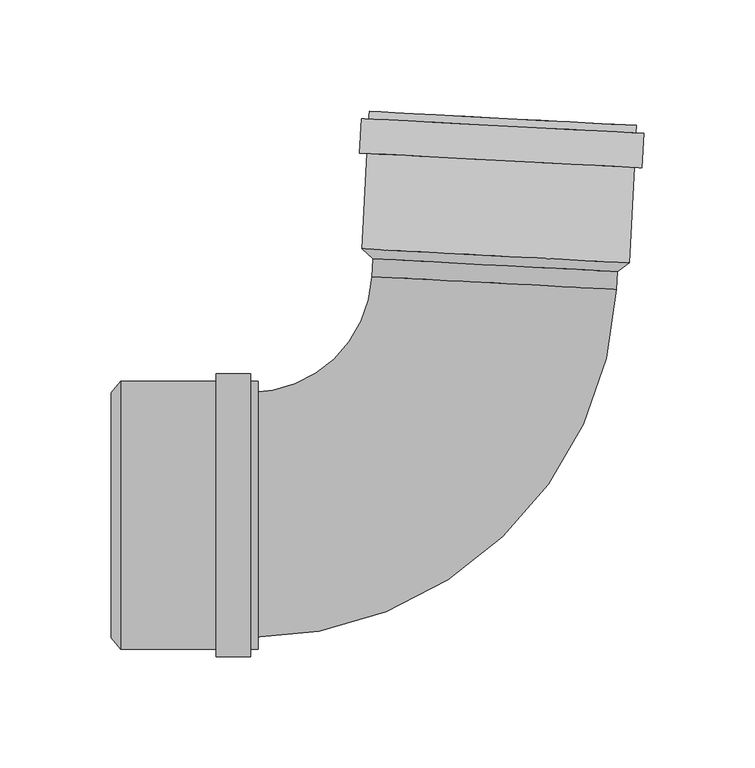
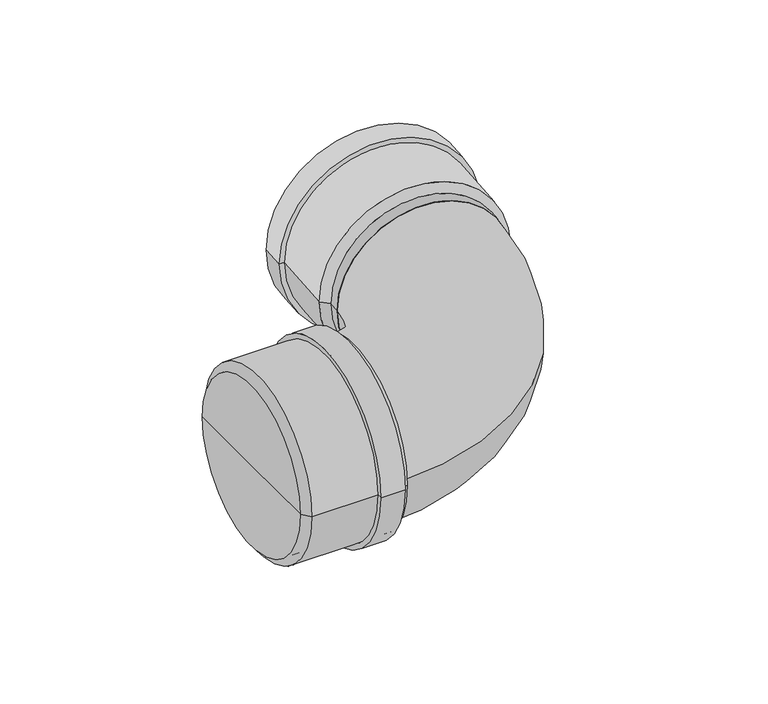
"""IFC4 building model written with IfcOpenShell, lengths in millimetres: pipe fitting geometry, pf_KGBD-SW : pf_KGBD-SW."""

from ifc_helpers import new_model, si_unit, point, frame, origin, origin_2d, place, context, project, spatial, polyline, circle_curve, ellipse_curve, trimmed, segment, composite_curve, outline, extrude, source, transform, mapped, element, save
from ifc_brep_helpers import plane_surface, cylinder_surface, revolved_surface, advanced_brep


def pipe_fitting_2e6fd54e(model_context):
    return source(origin(), model_context, "Body", "SolidModel", [
        advanced_brep(
        [(-166.5861023, -55.0, 0.0), (-166.5861023, 55.0, 0.0), (-162.3861023, 60.1, 0.0), (-162.3861023, -60.1, 0.0), (-166.5861023, 0.0, 0.0), (-100.5861023, -60.1, 0.0), (-100.5861023, 60.1, 0.0), (-100.5861023, 55.0, 0.0), (-100.5861023, -55.0, 0.0), (-103.9861023, -60.1, 0.0), (-103.9861023, 60.1, 0.0), (-103.9861023, -63.5, 0.0), (-103.9861023, 63.5, 0.0), (-119.4861023, -63.5, 0.0), (-119.4861023, 63.5, 0.0), (-119.4861023, -60.1, 0.0), (-119.4861023, 60.1, 0.0), (-162.3861023, -55.0, 0.0), (-162.3861023, 55.0, 0.0), (-162.3861023, 0.0, 0.0)],
        [
            (0, 1, circle_curve(frame((-166.5861023, 0.0, 0.0), z_axis=(1.0, 0.0, 0.0), x_axis=(0.0, 1.0, 0.0)), 55.0)),
            (1, 2),
            (2, 3, circle_curve(frame((-162.3861023, 0.0, 0.0), z_axis=(-1.0, 0.0, 0.0), x_axis=(0.0, 1.0, 0.0)), 60.1)),
            (3, 0),
            (1, 0, circle_curve(frame((-166.5861023, 0.0, 0.0), z_axis=(1.0, 0.0, 0.0), x_axis=(0.0, 1.0, 0.0)), 55.0)),
            (3, 2, circle_curve(frame((-162.3861023, 0.0, 0.0), z_axis=(-1.0, 0.0, 0.0), x_axis=(0.0, 1.0, 0.0)), 60.1)),
            (4, 1),
            (0, 4),
            (5, 6, circle_curve(frame((-100.5861023, 0.0, 0.0), z_axis=(1.0, 0.0, 0.0), x_axis=(0.0, 1.0, 0.0)), 60.1)),
            (6, 7),
            (7, 8, circle_curve(frame((-100.5861023, 0.0, 0.0), z_axis=(-1.0, 0.0, 0.0), x_axis=(0.0, 1.0, 0.0)), 55.0)),
            (8, 5),
            (6, 5, circle_curve(frame((-100.5861023, 0.0, 0.0), z_axis=(1.0, 0.0, 0.0), x_axis=(0.0, 1.0, 0.0)), 60.1)),
            (8, 7, circle_curve(frame((-100.5861023, 0.0, 0.0), z_axis=(-1.0, 0.0, 0.0), x_axis=(0.0, 1.0, 0.0)), 55.0)),
            (9, 10, circle_curve(frame((-103.9861023, 0.0, 0.0), z_axis=(1.0, 0.0, 0.0), x_axis=(0.0, 1.0, 0.0)), 60.1)),
            (10, 6),
            (5, 9),
            (10, 9, circle_curve(frame((-103.9861023, 0.0, 0.0), z_axis=(1.0, 0.0, 0.0), x_axis=(0.0, 1.0, 0.0)), 60.1)),
            (11, 12, circle_curve(frame((-103.9861023, 0.0, 0.0), z_axis=(1.0, 0.0, 0.0), x_axis=(0.0, 1.0, 0.0)), 63.5)),
            (12, 10),
            (9, 11),
            (12, 11, circle_curve(frame((-103.9861023, 0.0, 0.0), z_axis=(1.0, 0.0, 0.0), x_axis=(0.0, 1.0, 0.0)), 63.5)),
            (13, 14, circle_curve(frame((-119.4861023, 0.0, 0.0), z_axis=(1.0, 0.0, 0.0), x_axis=(0.0, 1.0, 0.0)), 63.5)),
            (14, 12),
            (11, 13),
            (14, 13, circle_curve(frame((-119.4861023, 0.0, 0.0), z_axis=(1.0, 0.0, 0.0), x_axis=(0.0, 1.0, 0.0)), 63.5)),
            (15, 16, circle_curve(frame((-119.4861023, 0.0, 0.0), z_axis=(1.0, 0.0, 0.0), x_axis=(0.0, 1.0, 0.0)), 60.1)),
            (16, 14),
            (13, 15),
            (16, 15, circle_curve(frame((-119.4861023, 0.0, 0.0), z_axis=(1.0, 0.0, 0.0), x_axis=(0.0, 1.0, 0.0)), 60.1)),
            (2, 16),
            (15, 3),
            (17, 18, circle_curve(frame((-162.3861023, 0.0, 0.0), z_axis=(1.0, 0.0, 0.0), x_axis=(0.0, 1.0, 0.0)), 55.0)),
            (18, 19),
            (19, 17),
            (18, 17, circle_curve(frame((-162.3861023, 0.0, 0.0), z_axis=(1.0, 0.0, 0.0), x_axis=(0.0, 1.0, 0.0)), 55.0)),
            (7, 18),
            (17, 8),
        ],
        [
            revolved_surface(polyline([(-162.3861023, 60.1, 0.0), (-166.5861023, 55.0, 0.0)]), (-166.5861023, 0.0, 0.0), (-1.0, 0.0, 0.0)),
            plane_surface(frame((-166.5861023, 0.0, 0.0), z_axis=(-1.0, 0.0, 0.0), x_axis=(0.0, 1.0, 0.0))),
            plane_surface(frame((-100.5861023, 0.0, 0.0), z_axis=(1.0, 0.0, 0.0), x_axis=(0.0, 1.0, 0.0))),
            cylinder_surface(frame((-166.5861023, 0.0, 0.0), z_axis=(-1.0, 0.0, 0.0), x_axis=(0.0, 1.0, 0.0)), 60.1),
            plane_surface(frame((-103.9861023, 0.0, 0.0), z_axis=(1.0, 0.0, 0.0), x_axis=(0.0, 1.0, 0.0))),
            cylinder_surface(frame((-166.5861023, 0.0, 0.0), z_axis=(-1.0, 0.0, 0.0), x_axis=(0.0, 1.0, 0.0)), 63.5),
            plane_surface(frame((-119.4861023, 0.0, 0.0), z_axis=(-1.0, 0.0, 0.0), x_axis=(0.0, 1.0, 0.0))),
            plane_surface(frame((-162.3861023, 0.0, 0.0), z_axis=(1.0, 0.0, 0.0), x_axis=(0.0, 1.0, 0.0))),
            revolved_surface(polyline([(-162.3861023, 55.0, 0.0), (-100.5861023, 55.0, 0.0)]), (-166.5861023, 0.0, 0.0), (-1.0, 0.0, 0.0)),
        ],
        [
            (0, [[1, 2, 3, 4]]),
            (0, [[5, -4, 6, -2]]),
            (1, [[7, -1, 8]]),
            (1, [[-8, -5, -7]]),
            (2, [[9, 10, 11, 12]]),
            (2, [[13, -12, 14, -10]]),
            (3, [[15, 16, -9, 17]]),
            (3, [[18, -17, -13, -16]]),
            (4, [[19, 20, -15, 21]]),
            (4, [[22, -21, -18, -20]]),
            (5, [[23, 24, -19, 25]]),
            (5, [[26, -25, -22, -24]]),
            (6, [[27, 28, -23, 29]]),
            (6, [[30, -29, -26, -28]]),
            (3, [[-3, 31, -27, 32]]),
            (3, [[-6, -32, -30, -31]]),
            (7, [[33, 34, 35]]),
            (7, [[36, -35, -34]]),
            (8, [[-11, 37, -33, 38]]),
            (8, [[-14, -38, -36, -37]]),
        ],
    ),
        advanced_brep(
        [(60.8064585, 109.3536035, 0.0), (-49.0427903, 115.1105587, 0.0), (-53.9159899, 119.5717161, 0.0), (66.1192802, 113.2809342, 0.0), (5.8818341, 112.2320811, 0.0), (69.3536423, 174.9962394, 0.0), (-50.6816278, 181.2870214, 0.0), (-45.5886172, 181.020108, 0.0), (64.2606317, 175.2631528, 0.0), (69.1757, 171.600899, 0.0), (-50.85957, 177.8916809, 0.0), (72.5710405, 171.4229567, 0.0), (-54.2549105, 178.0696232, 0.0), (71.7598331, 155.944199, 0.0), (-55.0661178, 162.5908654, 0.0), (68.3644927, 156.1221412, 0.0), (-51.6707774, 162.4129231, 0.0), (61.0262696, 113.5478475, 0.0), (-48.8229793, 119.3048027, 0.0), (6.1016452, 116.4263251, 0.0)],
        [
            (0, 1, circle_curve(frame((5.8818341, 112.2320811, 0.0), z_axis=(0.052335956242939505, 0.9986295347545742, 0.0), x_axis=(-0.9986295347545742, 0.052335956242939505, 0.0)), 55.0)),
            (1, 2),
            (2, 3, circle_curve(frame((6.1016452, 116.4263251, 0.0), z_axis=(-0.052335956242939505, -0.9986295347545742, 0.0), x_axis=(-0.9986295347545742, 0.052335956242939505, 0.0)), 60.1)),
            (3, 0),
            (1, 0, circle_curve(frame((5.8818341, 112.2320811, 0.0), z_axis=(0.052335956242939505, 0.9986295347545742, 0.0), x_axis=(-0.9986295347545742, 0.052335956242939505, 0.0)), 55.0)),
            (3, 2, circle_curve(frame((6.1016452, 116.4263251, 0.0), z_axis=(-0.052335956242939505, -0.9986295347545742, 0.0), x_axis=(-0.9986295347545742, 0.052335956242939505, 0.0)), 60.1)),
            (4, 1),
            (0, 4),
            (5, 6, circle_curve(frame((9.3360072, 178.1416304, 0.0), z_axis=(0.052335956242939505, 0.9986295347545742, 0.0), x_axis=(-0.9986295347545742, 0.052335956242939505, 0.0)), 60.1)),
            (6, 7),
            (7, 8, circle_curve(frame((9.3360072, 178.1416304, 0.0), z_axis=(-0.052335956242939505, -0.9986295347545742, 0.0), x_axis=(-0.9986295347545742, 0.052335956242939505, 0.0)), 55.0)),
            (8, 5),
            (6, 5, circle_curve(frame((9.3360072, 178.1416304, 0.0), z_axis=(0.052335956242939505, 0.9986295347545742, 0.0), x_axis=(-0.9986295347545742, 0.052335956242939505, 0.0)), 60.1)),
            (8, 7, circle_curve(frame((9.3360072, 178.1416304, 0.0), z_axis=(-0.052335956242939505, -0.9986295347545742, 0.0), x_axis=(-0.9986295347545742, 0.052335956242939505, 0.0)), 55.0)),
            (9, 10, circle_curve(frame((9.158065, 174.74629, 0.0), z_axis=(0.052335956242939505, 0.9986295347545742, 0.0), x_axis=(-0.9986295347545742, 0.052335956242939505, 0.0)), 60.1)),
            (10, 6),
            (5, 9),
            (10, 9, circle_curve(frame((9.158065, 174.74629, 0.0), z_axis=(0.052335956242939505, 0.9986295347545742, 0.0), x_axis=(-0.9986295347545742, 0.052335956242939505, 0.0)), 60.1)),
            (11, 12, circle_curve(frame((9.158065, 174.74629, 0.0), z_axis=(0.052335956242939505, 0.9986295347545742, 0.0), x_axis=(-0.9986295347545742, 0.052335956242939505, 0.0)), 63.5)),
            (12, 10),
            (9, 11),
            (12, 11, circle_curve(frame((9.158065, 174.74629, 0.0), z_axis=(0.052335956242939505, 0.9986295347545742, 0.0), x_axis=(-0.9986295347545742, 0.052335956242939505, 0.0)), 63.5)),
            (13, 14, circle_curve(frame((8.3468577, 159.2675322, 0.0), z_axis=(0.052335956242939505, 0.9986295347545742, 0.0), x_axis=(-0.9986295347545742, 0.052335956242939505, 0.0)), 63.5)),
            (14, 12),
            (11, 13),
            (14, 13, circle_curve(frame((8.3468577, 159.2675322, 0.0), z_axis=(0.052335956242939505, 0.9986295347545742, 0.0), x_axis=(-0.9986295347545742, 0.052335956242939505, 0.0)), 63.5)),
            (15, 16, circle_curve(frame((8.3468577, 159.2675322, 0.0), z_axis=(0.052335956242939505, 0.9986295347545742, 0.0), x_axis=(-0.9986295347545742, 0.052335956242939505, 0.0)), 60.1)),
            (16, 14),
            (13, 15),
            (16, 15, circle_curve(frame((8.3468577, 159.2675322, 0.0), z_axis=(0.052335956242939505, 0.9986295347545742, 0.0), x_axis=(-0.9986295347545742, 0.052335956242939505, 0.0)), 60.1)),
            (2, 16),
            (15, 3),
            (17, 18, circle_curve(frame((6.1016452, 116.4263251, 0.0), z_axis=(0.052335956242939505, 0.9986295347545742, 0.0), x_axis=(-0.9986295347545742, 0.052335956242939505, 0.0)), 55.0)),
            (18, 19),
            (19, 17),
            (18, 17, circle_curve(frame((6.1016452, 116.4263251, 0.0), z_axis=(0.052335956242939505, 0.9986295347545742, 0.0), x_axis=(-0.9986295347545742, 0.052335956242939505, 0.0)), 55.0)),
            (7, 18),
            (17, 8),
        ],
        [
            revolved_surface(polyline([(-53.9159899, 119.5717161, 0.0), (-49.0427903, 115.1105587, 0.0)]), (5.8818341, 112.2320811, 0.0), (-0.052335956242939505, -0.9986295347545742, 0.0)),
            plane_surface(frame((5.8818341, 112.2320811, 0.0), z_axis=(-0.052335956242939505, -0.9986295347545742, 0.0), x_axis=(-0.9986295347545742, 0.052335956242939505, 0.0))),
            plane_surface(frame((9.3360072, 178.1416304, 0.0), z_axis=(0.052335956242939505, 0.9986295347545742, 0.0), x_axis=(-0.9986295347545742, 0.052335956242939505, 0.0))),
            cylinder_surface(frame((5.8818341, 112.2320811, 0.0), z_axis=(-0.052335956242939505, -0.9986295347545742, 0.0), x_axis=(-0.9986295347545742, 0.052335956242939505, 0.0)), 60.1),
            plane_surface(frame((9.158065, 174.74629, 0.0), z_axis=(0.052335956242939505, 0.9986295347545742, 0.0), x_axis=(-0.9986295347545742, 0.052335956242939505, 0.0))),
            cylinder_surface(frame((5.8818341, 112.2320811, 0.0), z_axis=(-0.052335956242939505, -0.9986295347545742, 0.0), x_axis=(-0.9986295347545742, 0.052335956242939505, 0.0)), 63.5),
            plane_surface(frame((8.3468577, 159.2675322, 0.0), z_axis=(-0.052335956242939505, -0.9986295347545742, 0.0), x_axis=(-0.9986295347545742, 0.052335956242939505, 0.0))),
            plane_surface(frame((6.1016452, 116.4263251, 0.0), z_axis=(0.052335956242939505, 0.9986295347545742, 0.0), x_axis=(-0.9986295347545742, 0.052335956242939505, 0.0))),
            revolved_surface(polyline([(-48.82297929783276, 119.30480269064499, 0.0), (-45.58861719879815, 181.020107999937, 0.0)]), (5.8818341, 112.2320811, 0.0), (-0.052335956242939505, -0.9986295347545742, 0.0)),
        ],
        [
            (0, [[1, 2, 3, 4]]),
            (0, [[5, -4, 6, -2]]),
            (1, [[7, -1, 8]]),
            (1, [[-8, -5, -7]]),
            (2, [[9, 10, 11, 12]]),
            (2, [[13, -12, 14, -10]]),
            (3, [[15, 16, -9, 17]]),
            (3, [[18, -17, -13, -16]]),
            (4, [[19, 20, -15, 21]]),
            (4, [[22, -21, -18, -20]]),
            (5, [[23, 24, -19, 25]]),
            (5, [[26, -25, -22, -24]]),
            (6, [[27, 28, -23, 29]]),
            (6, [[30, -29, -26, -28]]),
            (3, [[-3, 31, -27, 32]]),
            (3, [[-6, -32, -30, -31]]),
            (7, [[33, 34, 35]]),
            (7, [[36, -35, -34]]),
            (8, [[-11, 37, -33, 38]]),
            (8, [[-14, -38, -36, -37]]),
        ],
    ),
        extrude(outline(composite_curve([segment(trimmed(circle_curve(origin_2d(), 55.0), [point((0.0, -55.0))], [point((0.0, 55.0))], False, "CARTESIAN"), True, "CONTINUOUS"), segment(trimmed(circle_curve(origin_2d(), 55.0), [point((0.0, 55.0))], [point((0.0, -55.0))], False, "CARTESIAN"), True, "CONTINUOUS")], self_intersect=False)), frame((5.4631465, 104.2430448, 0.0), z_axis=(0.05233595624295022, 0.9986295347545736, 0.0), x_axis=(0.0, 0.0, 1.0)), (0.0, 0.0, 1.0), 8.0),
        extrude(outline(composite_curve([segment(trimmed(circle_curve(origin_2d(), 55.0), [point((-55.0, 0.0))], [point((55.0, 0.0))], False, "CARTESIAN"), True, "CONTINUOUS"), segment(trimmed(circle_curve(origin_2d(), 55.0), [point((55.0, 0.0))], [point((-55.0, 0.0))], False, "CARTESIAN"), True, "CONTINUOUS")], self_intersect=False)), frame((-162.3861023, 0.0, 0.0), z_axis=(1.0, 0.0, 0.0), x_axis=(0.0, 1.0, 0.0)), (0.0, 0.0, 1.0), 58.0),
        advanced_brep(
        [(-104.3861023, -55.0, 0.0), (-104.3861023, 55.0, 0.0), (60.3877709, 101.3645672, 0.0), (-49.4614779, 107.1215224, 0.0)],
        [
            (0, 1, circle_curve(frame((-104.3861023, 0.0, 0.0), z_axis=(-1.0, 0.0, 0.0), x_axis=(0.0, 1.0, 0.0)), 55.0)),
            (1, 0, circle_curve(frame((-104.3861023, 0.0, 0.0), z_axis=(-1.0, 0.0, 0.0), x_axis=(0.0, 1.0, 0.0)), 55.0)),
            (2, 3, circle_curve(frame((5.4631465, 104.2430448, 0.0), z_axis=(0.05233595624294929, 0.9986295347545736, 0.0), x_axis=(-0.9986295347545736, 0.05233595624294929, 0.0)), 55.0)),
            (3, 2, circle_curve(frame((5.4631465, 104.2430448, 0.0), z_axis=(0.05233595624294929, 0.9986295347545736, 0.0), x_axis=(-0.9986295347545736, 0.05233595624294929, 0.0)), 55.0)),
            (3, 1, circle_curve(frame((-104.3861023, 110.0, 0.0), z_axis=(0.0, 0.0, -1.0), x_axis=(0.0, -1.0, 0.0)), 55.0)),
            (0, 2, circle_curve(frame((-104.3861023, 110.0, 0.0), z_axis=(0.0, 0.0, 1.0), x_axis=(0.0, -1.0, 0.0)), 165.0)),
        ],
        [
            plane_surface(frame((-104.3861023, 0.0, 0.0), z_axis=(-1.0, 0.0, 0.0), x_axis=(0.0, 0.0, 1.0))),
            plane_surface(frame((5.4631465, 104.2430448, 0.0), z_axis=(0.0523359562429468, 0.9986295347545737, 0.0), x_axis=(0.0, 0.0, 1.0))),
            revolved_surface(trimmed(ellipse_curve(frame((-104.3861023, 0.0, 0.0), z_axis=(-1.0, 0.0, 0.0), x_axis=(0.0, 1.0, 0.0)), 55.0, 55.0), [point((-104.3861023, -55.0, 0.0))], [point((-104.3861023, 55.0, 0.0))], True, "CARTESIAN"), (-104.3861023, 110.0, 0.0), (0.0, 0.0, 1.0)),
            revolved_surface(trimmed(ellipse_curve(frame((-104.3861023, 0.0, 0.0), z_axis=(-1.0, 0.0, 0.0), x_axis=(0.0, 1.0, 0.0)), 55.0, 55.0), [point((-104.3861023, 55.0, 0.0))], [point((-104.3861023, -55.0, 0.0))], True, "CARTESIAN"), (-104.3861023, 110.0, 0.0), (0.0, 0.0, 1.0)),
        ],
        [
            (0, [[1, 2]]),
            (1, [[3, 4]]),
            (2, [[5, -1, 6, -4]]),
            (3, [[-6, -2, -5, -3]]),
        ],
    ),
    ])


if __name__ == "__main__":
    model = new_model("IFC4")
    model_context = context("Model", 3, world=origin())
    ifc_project = project(units=[si_unit("LENGTHUNIT", "METRE", prefix="MILLI")], contexts=[model_context])
    site = spatial("IfcSite", under=ifc_project)
    building = spatial("IfcBuilding", under=site)
    placement = place(None, origin())
    pipe_fitting_shape = pipe_fitting_2e6fd54e(model_context)
    element("IfcPipeFitting", 1, ObjectType="pf_KGBD-SW : pf_KGBD-SW", at=placement, inside=building, context=model_context, shape_type="MappedRepresentation", body=[
        mapped(pipe_fitting_shape, transform((0.0, 0.0, 0.0), x_axis=(1.0, 0.0, 0.0), y_axis=(0.0, 1.0, 0.0), z_axis=(0.0, 0.0, 1.0))),
    ])
    save(model, "model.ifc")
